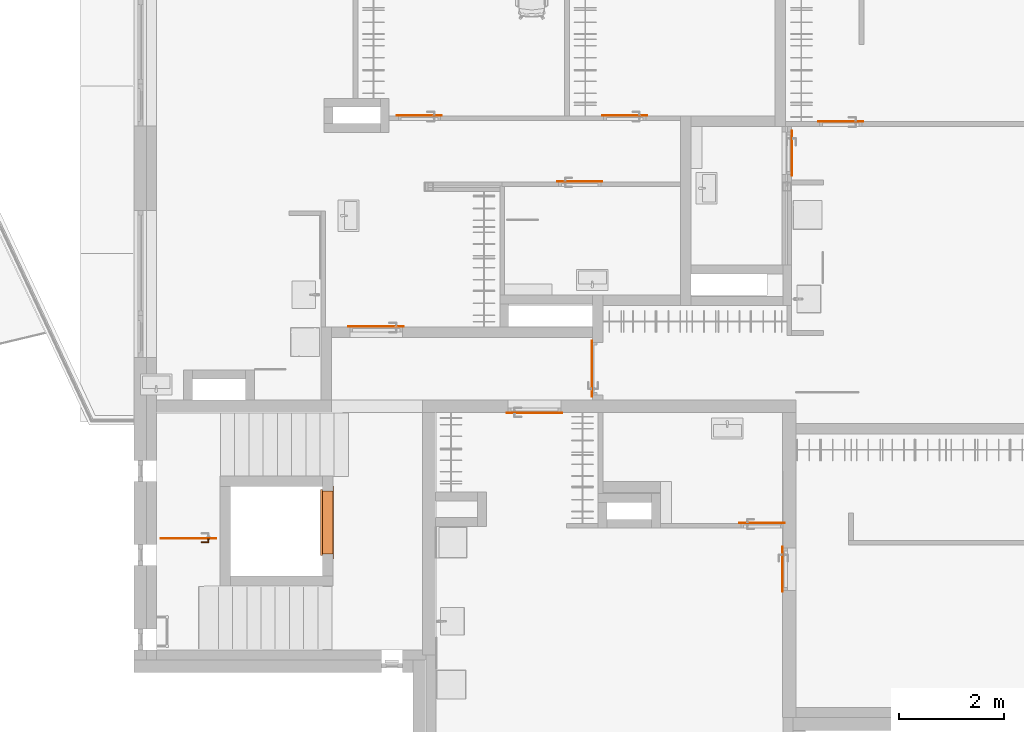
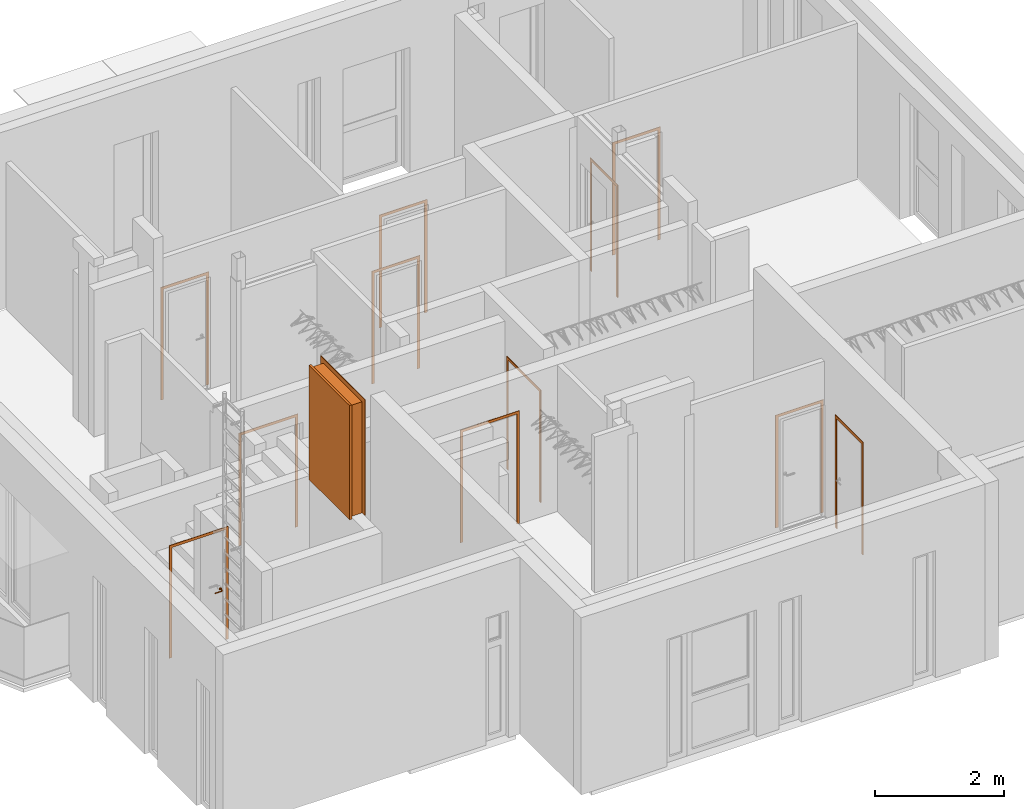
# One storey, part 21 of 42: 13 proxies.
"""IFC2X3 building model written with IfcOpenShell, lengths in millimetres."""

from ifc_helpers import new_model, entity, si_unit, converted_unit, direction, frame, origin, origin_2d_with_axis, place, context, subcontext, project, spatial, polyline, rectangle, outline, extrude, faceted_brep, source, transform, mapped, material, type_object, type_shapes, element, save


model = new_model("IFC2X3")

# Units and contexts
model_context = context("Model", 3, precision=0.01, world=origin(), true_north=direction((6.123233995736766e-17, 1.0)))
plan_context = context("Plan", 3, precision=0.01, world=origin(), true_north=direction((6.123233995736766e-17, 1.0)))
body_context = subcontext(model_context, "Body", "Model", "MODEL_VIEW")
ifc_project = project(units=[si_unit("LENGTHUNIT", "METRE", prefix="MILLI"), converted_unit("PLANEANGLEUNIT", "DEGREE", entity("IfcPlaneAngleMeasure", 0.017453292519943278), si_unit("PLANEANGLEUNIT", "RADIAN"), dimensions=[0, 0, 0, 0, 0, 0, 0]), si_unit("AREAUNIT", "SQUARE_METRE")], contexts=[model_context, plan_context])

# Site, building, storey, space
site_placement = place(None, origin())
site = spatial("IfcSite", under=ifc_project, at=site_placement, Name="Default", CompositionType="ELEMENT")
building_placement = place(site_placement, origin())
building = spatial("IfcBuilding", under=site, at=building_placement, CompositionType="ELEMENT")
storey_placement = place(building_placement, frame((0.0, 0.0, 9465.000076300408)))
storey = spatial("IfcBuildingStorey", under=building, at=storey_placement, Name="4K", CompositionType="ELEMENT", Elevation=9465.000076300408)
space_1_placement = place(storey_placement, origin())
space_1 = spatial("IfcSpace", under=storey, at=space_1_placement, Name="4-0.1", CompositionType="ELEMENT", InteriorOrExteriorSpace="INTERNAL")

# Proxies
ifc_material_1 = material(Name="<Unnamed>")
building_element_proxy_type_1 = type_object("IfcBuildingElementProxyType", Name="Door-handle_Lever_ABLOY_INOXI_3-19ss-002_RT:Default", PredefinedType="NOTDEFINED", material=ifc_material_1)
shared_shape_1 = source(origin(), body_context, "Body", "Brep", [
    faceted_brep([(0.0, 0.0, 0.0), (21.034441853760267, -15.282416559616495, 0.0), (14.534441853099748, -20.00494299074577, 0.0), (8.034441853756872, -24.72746942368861, 0.0), (0.0, -24.72746942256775, 0.0), (23.51722092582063, -7.6412082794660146, 0.0), (26.0, 0.0, 0.0), (-8.034441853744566, -24.727469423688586, 0.0), (-14.534441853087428, -20.00494299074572, 0.0), (-21.03444185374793, -15.282416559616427, 0.0), (-23.517220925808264, -7.641208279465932, 0.0), (-26.0, 0.0, 0.0), (-23.517220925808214, 7.641208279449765, 0.0), (23.517220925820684, 7.641208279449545, 0.0), (21.034441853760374, 15.282416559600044, 0.0), (14.53444185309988, 20.00494299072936, 0.0), (8.034441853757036, 24.72746942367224, 0.0), (-21.034441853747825, 15.282416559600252, 0.0), (-14.53444185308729, 20.004942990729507, 0.0), (-8.0344418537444, 24.72746942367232, 0.0), (0.0, 24.72746942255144, 0.0), (0.0, 0.0, 8.0), (4.7500000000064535, -8.227241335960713, 8.0), (5.937500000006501, -6.170431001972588, 8.0), (7.125000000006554, -4.113620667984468, 8.0), (8.312500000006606, -2.0568103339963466, 8.0), (9.500000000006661, 0.0, 8.0), (8.312500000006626, 2.056810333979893, 8.0), (2.3750000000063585, -8.227241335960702, 8.0), (0.0, -8.227241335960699, 8.0), (-2.3749999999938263, -8.227241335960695, 8.0), (-4.749999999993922, -8.227241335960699, 8.0), (-5.937499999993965, -6.170431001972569, 8.0), (-7.124999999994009, -4.113620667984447, 8.0), (-8.312499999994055, -2.056810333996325, 8.0), (-9.499999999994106, 0.0, 8.0), (7.125000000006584, 4.113620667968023, 8.0), (5.937500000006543, 6.170431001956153, 8.0), (4.750000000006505, 8.227241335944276, 8.0), (2.3750000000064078, 8.22724133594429, 8.0), (-8.31249999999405, 2.0568103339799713, 8.0), (-7.12499999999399, 4.113620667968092, 8.0), (-5.9374999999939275, 6.170431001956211, 8.0), (-4.74999999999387, 8.227241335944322, 8.0), (0.0, 8.227241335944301, 8.0), (-2.374999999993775, 8.227241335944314, 8.0), (-22.488765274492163, -10.806469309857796, 4.030771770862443), (-16.663919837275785, -7.932665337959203, 6.877259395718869), (-20.643071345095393, -6.292822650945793, 5.929480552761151), (-12.50457926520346, -5.179566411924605, 7.774932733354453), (-16.764060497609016, -3.820257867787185, 7.1747985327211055), (-9.071726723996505, -10.311606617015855, 7.7520782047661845), (-11.963426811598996, -8.625290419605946, 7.618343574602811), (-11.979136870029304, -13.678312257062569, 6.945778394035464), (5.7585542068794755, -20.96753300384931, 5.871476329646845), (0.0, -24.72746942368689, 4.030771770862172), (8.03444185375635, -24.727469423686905, 4.030771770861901), (16.66391982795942, -7.932665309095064, 6.877259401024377), (22.488765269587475, -10.806469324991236, 4.03077177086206), (20.64307133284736, -6.29282258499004, 5.929480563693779), (14.534441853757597, -20.004942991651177, 4.030771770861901), (9.499431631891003, -18.64368355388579, 6.154325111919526), (-15.783149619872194, -11.991003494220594, 6.50080018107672), (-21.034441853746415, -15.282416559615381, 4.030771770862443), (-14.53444185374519, -20.00494299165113, 4.030771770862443), (-23.012042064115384, 0.0, 5.135401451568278), (-23.943088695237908, -6.330522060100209, 4.030771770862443), (11.96342678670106, -8.62529049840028, 7.618343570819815), (12.504579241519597, -5.179566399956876, 7.774932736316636), (16.764060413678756, -3.8202578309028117, 7.17479855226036), (15.783149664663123, -11.991003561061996, 6.50080015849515), (17.985351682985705, 0.0, 6.993737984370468), (23.012042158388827, 0.0, 5.135401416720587), (8.661516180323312, -10.478936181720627, 7.768126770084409), (-8.03444185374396, -24.727469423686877, 4.030771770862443), (-3.3573143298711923, -21.197247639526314, 5.971427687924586), (-9.941915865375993, -17.061976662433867, 6.522757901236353), (-5.973257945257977, -16.430139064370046, 7.110979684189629), (-7.711266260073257, -12.760344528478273, 7.594456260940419), (11.979136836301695, -13.678312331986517, 6.945778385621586), (7.511307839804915, -13.358932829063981, 7.529187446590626), (5.953298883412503, -16.50608604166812, 7.096344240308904), (-1.5654593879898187, -15.307443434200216, 7.519134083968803), (-7.784980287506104, -20.476295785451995, 5.812837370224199), (2.8135289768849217, -17.76392260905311, 6.993737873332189), (-17.98535168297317, 0.0, 6.993737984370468), (-26.0, 0.0, 4.030771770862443), (-23.51722092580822, -7.641208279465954, 4.030771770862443), (23.943088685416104, -6.33052209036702, 4.030771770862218), (24.308823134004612, -5.204907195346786, 4.030771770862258), (26.0, 0.0, 4.030771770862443), (21.03444185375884, -15.282416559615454, 4.030771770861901), (22.617646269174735, -10.40981439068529, 4.030771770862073), (22.488765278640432, 10.806469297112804, 4.030771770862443), (16.66391984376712, 7.932665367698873, 6.877259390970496), (20.643071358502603, 6.292822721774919, 5.929480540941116), (12.504579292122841, 5.179566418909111, 7.774932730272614), (16.764060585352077, 3.8202579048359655, 7.174798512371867), (9.07172672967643, 10.31160659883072, 7.752078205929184), (11.963426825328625, 8.62529034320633, 7.618343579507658), (11.979136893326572, 13.67831220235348, 6.9457784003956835), (-5.758554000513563, 20.96753314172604, 5.8714763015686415), (0.0, 24.72746942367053, 4.030771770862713), (-8.03444185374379, 24.72746942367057, 4.030771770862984), (-16.663919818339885, 7.932665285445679, 6.877259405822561), (-22.48876526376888, 10.806469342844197, 4.030771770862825), (-20.643071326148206, 6.2928225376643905, 5.929480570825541), (-14.534441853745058, 20.004942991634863, 4.030771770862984), (-9.499431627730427, 18.643683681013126, 6.154325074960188), (15.783149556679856, 11.991003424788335, 6.5008002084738), (21.03444185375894, 15.282416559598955, 4.030771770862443), (14.534441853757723, 20.004942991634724, 4.030771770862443), (23.943088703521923, 6.330522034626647, 4.030771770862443), (-11.96342675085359, 8.625290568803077, 7.618343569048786), (-12.504579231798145, 5.179566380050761, 7.77493273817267), (-16.764060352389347, 3.820257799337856, 7.174798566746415), (-15.78314967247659, 11.991003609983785, 6.500800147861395), (-8.661516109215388, 10.478936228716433, 7.768126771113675), (8.034441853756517, 24.727469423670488, 4.030771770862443), (3.3573144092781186, 21.197247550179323, 5.971427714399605), (9.941915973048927, 17.061976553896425, 6.522757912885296), (5.9732581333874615, 16.430139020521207, 7.110979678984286), (7.711266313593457, 12.760344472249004, 7.5944562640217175), (-11.979136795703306, 13.678312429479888, 6.945778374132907), (-7.511307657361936, 13.358932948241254, 7.5291874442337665), (-5.9532988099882, 16.50608628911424, 7.096344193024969), (1.5654596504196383, 15.3074431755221, 7.519134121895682), (7.784980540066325, 20.476295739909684, 5.812837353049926), (-2.81352881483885, 17.76392263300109, 6.993737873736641), (23.51722092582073, 7.6412082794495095, 4.030771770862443), (-23.94308867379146, 6.330522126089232, 4.030771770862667), (-24.308823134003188, 5.20490719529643, 4.030771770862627), (-21.034441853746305, 15.282416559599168, 4.030771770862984), (-22.617646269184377, 10.409814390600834, 4.0307717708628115)], [[[0, 1, 2]], [[0, 2, 3]], [[0, 3, 4]], [[0, 5, 1]], [[0, 6, 5]], [[0, 4, 7]], [[0, 7, 8]], [[0, 8, 9]], [[0, 9, 10]], [[0, 10, 11]], [[0, 11, 12]], [[0, 13, 6]], [[0, 14, 13]], [[0, 15, 14]], [[0, 16, 15]], [[0, 12, 17]], [[0, 17, 18]], [[0, 18, 19]], [[0, 19, 20]], [[0, 20, 16]], [[21, 22, 23]], [[21, 23, 24]], [[21, 24, 25]], [[21, 25, 26]], [[21, 26, 27]], [[21, 28, 22]], [[21, 29, 28]], [[21, 30, 29]], [[21, 31, 30]], [[21, 32, 31]], [[21, 33, 32]], [[21, 34, 33]], [[21, 35, 34]], [[21, 27, 36]], [[21, 36, 37]], [[21, 37, 38]], [[21, 38, 39]], [[21, 40, 35]], [[21, 41, 40]], [[21, 42, 41]], [[21, 43, 42]], [[21, 39, 44]], [[21, 44, 45]], [[21, 45, 43]], [[46, 47, 48]], [[47, 49, 50]], [[49, 33, 34]], [[51, 52, 53]], [[49, 52, 33]], [[48, 47, 50]], [[54, 55, 56]], [[57, 58, 59]], [[56, 60, 61]], [[62, 63, 64]], [[65, 66, 48]], [[67, 57, 68]], [[68, 69, 25]], [[57, 67, 70]], [[69, 26, 25]], [[62, 53, 52]], [[71, 69, 72]], [[67, 23, 73]], [[74, 55, 75]], [[76, 77, 78]], [[79, 60, 70]], [[69, 59, 72]], [[80, 81, 61]], [[77, 30, 78]], [[82, 30, 77]], [[28, 80, 22]], [[77, 83, 75]], [[75, 82, 77]], [[55, 84, 75]], [[85, 50, 35]], [[24, 68, 25]], [[82, 84, 29]], [[84, 82, 75]], [[31, 78, 30]], [[82, 29, 30]], [[34, 35, 50]], [[52, 49, 47]], [[62, 52, 47]], [[34, 50, 49]], [[53, 78, 51]], [[32, 33, 52]], [[85, 65, 50]], [[66, 65, 86]], [[67, 68, 24]], [[77, 76, 83]], [[65, 48, 50]], [[63, 62, 46]], [[48, 66, 87, 46]], [[62, 47, 46]], [[69, 68, 57]], [[80, 73, 22]], [[70, 67, 79]], [[67, 24, 23]], [[72, 88, 89, 90]], [[69, 71, 26]], [[59, 69, 57]], [[61, 60, 79]], [[62, 64, 53]], [[91, 58, 70]], [[72, 59, 88]], [[57, 70, 58]], [[59, 58, 92]], [[80, 61, 79]], [[91, 70, 60]], [[61, 81, 54]], [[73, 80, 79]], [[28, 84, 81]], [[67, 73, 79]], [[29, 84, 28]], [[22, 73, 23]], [[51, 31, 32]], [[76, 78, 53]], [[53, 64, 76]], [[83, 64, 74]], [[64, 83, 76]], [[75, 83, 74]], [[31, 51, 78]], [[52, 51, 32]], [[28, 81, 80]], [[54, 81, 84]], [[55, 54, 84]], [[61, 54, 56]], [[93, 94, 95]], [[94, 96, 97]], [[96, 36, 27]], [[98, 99, 100]], [[96, 99, 36]], [[95, 94, 97]], [[101, 102, 103]], [[104, 105, 106]], [[103, 107, 108]], [[109, 110, 111]], [[72, 112, 95]], [[113, 104, 114]], [[114, 115, 40]], [[104, 113, 116]], [[115, 35, 40]], [[109, 100, 99]], [[85, 115, 65]], [[113, 42, 117]], [[118, 102, 119]], [[120, 121, 122]], [[123, 107, 116]], [[115, 106, 65]], [[124, 125, 108]], [[121, 39, 122]], [[126, 39, 121]], [[45, 124, 43]], [[121, 127, 119]], [[119, 126, 121]], [[102, 128, 119]], [[71, 97, 26]], [[41, 114, 40]], [[126, 128, 44]], [[128, 126, 119]], [[38, 122, 39]], [[126, 44, 39]], [[27, 26, 97]], [[99, 96, 94]], [[109, 99, 94]], [[27, 97, 96]], [[100, 122, 98]], [[37, 36, 99]], [[71, 72, 97]], [[112, 72, 90]], [[113, 114, 41]], [[121, 120, 127]], [[72, 95, 97]], [[110, 109, 93]], [[95, 112, 129, 93]], [[109, 94, 93]], [[115, 114, 104]], [[124, 117, 43]], [[116, 113, 123]], [[113, 41, 42]], [[65, 130, 131, 86]], [[115, 85, 35]], [[106, 115, 104]], [[108, 107, 123]], [[109, 111, 100]], [[132, 105, 116]], [[65, 106, 130]], [[104, 116, 105]], [[106, 105, 133]], [[124, 108, 123]], [[132, 116, 107]], [[108, 125, 101]], [[117, 124, 123]], [[45, 128, 125]], [[113, 117, 123]], [[44, 128, 45]], [[43, 117, 42]], [[98, 38, 37]], [[120, 122, 100]], [[100, 111, 120]], [[127, 111, 118]], [[111, 127, 120]], [[119, 127, 118]], [[38, 98, 122]], [[99, 98, 37]], [[45, 125, 124]], [[101, 125, 128]], [[102, 101, 128]], [[108, 101, 103]], [[7, 74, 64, 63, 9, 8]], [[10, 9, 63, 46, 87, 66, 86, 11]], [[6, 90, 89, 88, 92, 1, 5]], [[1, 58, 91]], [[74, 7, 4, 3, 56, 55]], [[60, 56, 3, 2, 1, 91]], [[1, 92, 58]], [[14, 110, 93, 129, 112, 90, 6, 13]], [[111, 110, 14, 15, 16, 118]], [[11, 86, 131, 130, 133, 17, 12]], [[17, 105, 132]], [[118, 16, 20, 19, 103, 102]], [[107, 103, 19, 18, 17, 132]], [[17, 133, 105]], [[59, 92, 88]], [[106, 133, 130]]]),
    faceted_brep([(4.7499999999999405, -8.22724133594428, 8.0), (2.4587809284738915, -9.176295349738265, 8.0), (0.0, -9.499999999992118, 8.0), (-2.4587809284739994, -9.176295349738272, 8.0), (-4.7500000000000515, -8.227241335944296, 8.0), (-6.717514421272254, -6.717514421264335, 8.0), (-8.227241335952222, -4.74999999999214, 8.0), (-9.176295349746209, -2.4587809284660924, 8.0), (-9.500000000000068, 0.0, 8.0), (-9.176295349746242, 2.458780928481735, 8.0), (-8.227241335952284, 4.750000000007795, 8.0), (-6.717514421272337, 6.717514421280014, 8.0), (-4.750000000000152, 8.227241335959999, 8.0), (-2.4587809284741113, 9.176295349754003, 8.0), (0.0, 9.500000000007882, 8.0), (2.4587809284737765, 9.176295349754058, 8.0), (4.7499999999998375, 8.227241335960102, 8.0), (6.717514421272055, 6.717514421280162, 8.0), (8.22724133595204, 4.75000000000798, 8.0), (9.17629534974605, 2.458780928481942, 8.0), (9.499999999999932, 0.0, 8.0), (9.17629534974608, -2.458780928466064, 8.0), (8.227241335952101, -4.749999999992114, 8.0), (6.717514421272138, -6.7175144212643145, 8.0), (-8.227241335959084, 4.7499999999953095, 59.772758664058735), (-6.717514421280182, 6.7175144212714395, 61.282485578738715), (-9.176295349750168, 2.458780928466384, 58.82370465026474), (-4.750000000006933, 8.227241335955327, 63.25000000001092), (-2.4587809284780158, 9.176295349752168, 65.54121907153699), (-9.500000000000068, 0.0, 58.50000000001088), (0.0, 9.50000000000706, 68.0), (4.750000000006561, 8.227241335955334, 72.75000000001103), (2.4587809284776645, 9.17629534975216, 70.45878092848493), (6.717514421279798, 6.7175144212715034, 74.71751442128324), (8.22724133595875, 4.749999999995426, 76.22724133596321), (9.17629534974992, 2.458780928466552, 77.17629534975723), (9.499999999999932, 0.0, 77.50000000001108), (9.176295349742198, -2.4587809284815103, 77.1762953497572), (8.227241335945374, -4.750000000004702, 76.22724133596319), (6.7175144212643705, -6.717514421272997, 74.7175144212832), (4.749999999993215, -8.227241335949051, 72.75000000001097), (2.4587809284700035, -9.17629534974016, 70.45878092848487), (0.0, -9.49999999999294, 68.0), (-2.4587809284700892, -9.176295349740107, 65.54121907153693), (-4.749999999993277, -8.227241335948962, 63.250000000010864), (-6.717514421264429, -6.717514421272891, 61.282485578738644), (-9.176295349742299, -2.458780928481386, 58.8237046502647), (-8.227241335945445, -4.750000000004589, 59.77275866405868), (-135.0, -9.176295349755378, 70.4587809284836), (-135.0, -8.227241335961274, 72.75000000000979), (-135.0, -6.717514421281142, 74.71751442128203), (-135.0, -4.750000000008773, 76.22724133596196), (-135.0, -2.4587809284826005, 77.17629534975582), (-135.0, 0.0, 77.5000000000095), (-135.0, 2.4587809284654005, 77.17629534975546), (-135.0, 4.749999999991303, 76.22724133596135), (-135.0, 6.717514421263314, 74.71751442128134), (-135.0, 8.227241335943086, 72.75000000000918), (-135.0, 9.17629534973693, 70.45878092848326), (-135.0, 9.499999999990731, 68.0), (-135.0, 9.17629534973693, 65.54121907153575), (-135.0, 8.227241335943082, 63.250000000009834), (-135.0, 6.717514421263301, 61.28248557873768), (-135.0, 4.749999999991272, 59.772758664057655), (-135.0, 2.458780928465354, 58.823704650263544), (-135.0, 0.0, 58.50000000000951), (-135.0, -2.458780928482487, 58.82370465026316), (-135.0, -4.750000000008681, 59.772758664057), (-135.0, -6.7175144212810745, 61.28248557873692), (-135.0, -8.227241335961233, 63.25000000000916), (-135.0, -9.176295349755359, 65.54121907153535), (-135.0, -9.500000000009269, 68.0)], [[[0, 1, 2, 3, 4, 5, 6, 7, 8, 9, 10, 11, 12, 13, 14, 15, 16, 17, 18, 19, 20, 21, 22, 23]], [[24, 25, 11, 10]], [[26, 24, 10, 9]], [[14, 27, 28]], [[13, 27, 14]], [[25, 27, 13]], [[29, 26, 9, 8]], [[12, 11, 25]], [[25, 13, 12]], [[28, 30, 15]], [[31, 17, 32]], [[33, 18, 31]], [[19, 34, 35]], [[33, 34, 19]], [[20, 19, 35, 36]], [[16, 15, 30]], [[14, 28, 15]], [[19, 18, 33]], [[17, 31, 18]], [[17, 16, 32]], [[30, 32, 16]], [[20, 36, 37, 21]], [[38, 21, 37]], [[22, 39, 40]], [[38, 39, 21]], [[23, 40, 41]], [[39, 22, 21]], [[1, 42, 43]], [[42, 1, 0]], [[23, 41, 0]], [[23, 22, 40]], [[41, 42, 0]], [[44, 45, 3]], [[43, 44, 2]], [[46, 29, 8, 7]], [[47, 46, 7, 6]], [[45, 47, 6, 5]], [[45, 4, 3]], [[3, 2, 44]], [[5, 4, 45]], [[43, 2, 1]], [[48, 49, 50, 51, 52, 53, 54, 55, 56, 57, 58, 59, 60, 61, 62, 63, 64, 65, 66, 67, 68, 69, 70, 71]], [[64, 63, 24, 26]], [[65, 64, 26, 29]], [[61, 60, 28, 27]], [[62, 61, 27, 25]], [[63, 62, 25, 24]], [[59, 30, 28, 60]], [[57, 56, 33, 31]], [[58, 57, 31, 32]], [[54, 53, 36, 35]], [[55, 54, 35, 34]], [[56, 55, 34, 33]], [[32, 30, 59, 58]], [[52, 51, 38, 37]], [[53, 52, 37, 36]], [[49, 48, 41, 40]], [[50, 49, 40, 39]], [[51, 50, 39, 38]], [[42, 41, 48, 71]], [[69, 68, 45, 44]], [[70, 69, 44, 43]], [[66, 65, 29, 46]], [[67, 66, 46, 47]], [[68, 67, 47, 45]], [[42, 71, 70, 43]]]),
])
type_shapes(building_element_proxy_type_1, [shared_shape_1])
proxy_1_placement = place(space_1_placement, frame((984.9967674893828, 4010.0, 2565.999923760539), z_axis=(0.0, -1.0, 0.0), x_axis=(1.0, 0.0, 0.0)))
element("IfcBuildingElementProxy", 1, at=proxy_1_placement, inside=space_1, type_object=building_element_proxy_type_1, material=ifc_material_1, Name="Door-handle_Lever_ABLOY_INOXI_3-19ss-002_RT:Default", ObjectType="Door-handle_Lever_ABLOY_INOXI_3-19ss-002_RT:Default", context=body_context, shape_type="MappedRepresentation", body=[
    mapped(shared_shape_1, transform((0.0, 0.0, 0.0), scale=1.0)),
])
building_element_proxy_type_2 = type_object("IfcBuildingElementProxyType", Name="Door-casing_Rectangle:Door-casing_Rectangle", PredefinedType="NOTDEFINED", material=ifc_material_1)
shared_shape_2 = source(origin(), body_context, "Body", "SweptSolid", [
    extrude(rectangle(XDim=9.999999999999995, YDim=49.99999999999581, at=origin_2d_with_axis()), frame((-505.0, 5.0, 0.0), z_axis=(0.0, 0.0, 1.0), x_axis=(0.0, 1.0, 0.0)), (0.0, 0.0, 1.0), 2130.000000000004),
    extrude(rectangle(XDim=9.999999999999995, YDim=50.0000000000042, at=origin_2d_with_axis()), frame((505.0, 5.0, 0.0), z_axis=(0.0, 0.0, 1.0), x_axis=(0.0, 1.0, 0.0)), (0.0, 0.0, 1.0), 2130.000000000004),
    extrude(rectangle(XDim=9.999999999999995, YDim=960.0000000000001, at=origin_2d_with_axis()), frame((0.0, 5.0, 2080.0), z_axis=(0.0, 0.0, 1.0), x_axis=(0.0, 1.0, 0.0)), (0.0, 0.0, 1.0), 50.000000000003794),
])
type_shapes(building_element_proxy_type_2, [shared_shape_2])
proxy_2_placement = place(space_1_placement, frame((604.9967674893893, 4020.0, 1565.9999237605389), z_axis=(0.0, 0.0, 1.0), x_axis=(-1.0, 0.0, 0.0)))
element("IfcBuildingElementProxy", 2, at=proxy_2_placement, inside=space_1, type_object=building_element_proxy_type_2, material=ifc_material_1, Name="Door-casing_Rectangle:Door-casing_Rectangle", ObjectType="Door-casing_Rectangle:Door-casing_Rectangle", context=body_context, shape_type="MappedRepresentation", body=[
    mapped(shared_shape_2, transform((0.0, 0.0, 0.0), scale=1.0)),
])
building_element_proxy_type_3 = type_object("IfcBuildingElementProxyType", Name="HR_Elevator-door_v1:Default", PredefinedType="NOTDEFINED", material=ifc_material_1)
shared_shape_3 = source(origin(), body_context, "Body", "SweptSolid", [
    extrude(rectangle(XDim=39.999999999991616, YDim=630.0000000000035, at=origin_2d_with_axis()), frame((-190.0, -120.00000000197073, -30.0), z_axis=(0.0, 0.0, 1.0), x_axis=(0.0, 1.0, 0.0)), (0.0, 0.0, 1.0), 2160.000000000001),
    extrude(rectangle(XDim=39.999999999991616, YDim=629.9999999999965, at=origin_2d_with_axis()), frame((440.0, -120.00000000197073, -30.0), z_axis=(0.0, 0.0, 1.0), x_axis=(0.0, 1.0, 0.0)), (0.0, 0.0, 1.0), 2160.000000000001),
    extrude(outline(polyline([(-690.0, -1070.0), (-590.0, -1070.0), (-590.0, 1020.0), (590.0, 1020.0), (590.0, -1070.0), (690.0, -1070.0), (690.0, 1120.0), (-690.0, 1120.0), (-690.0, -1070.0)])), frame((125.0, 99.99999999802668, 1070.0), z_axis=(0.0, 1.0, 0.0), x_axis=(-1.0, 0.0, 0.0)), (0.0, 0.0, 1.0), 10.000000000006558),
    extrude(outline(polyline([(-1052.5000000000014, -600.0), (1047.5, -600.0), (1047.4999999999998, -590.0), (-1042.4999999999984, -590.0), (-1042.4999999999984, 590.0), (1047.4999999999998, 590.0), (1047.5, 600.0), (-1052.5000000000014, 600.0), (-1052.5000000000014, -600.0)])), frame((125.0, -100.00000000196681, 1047.5000000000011), z_axis=(0.0, 1.0, 0.0), x_axis=(0.0, 0.0, -1.0)), (0.0, 0.0, 1.0), 199.99999999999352),
])
type_shapes(building_element_proxy_type_3, [shared_shape_3])
proxy_3_placement = place(space_1_placement, frame((3249.9935349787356, 4444.998433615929, 3345.999923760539), z_axis=(0.0, 0.0, 1.0), x_axis=(0.0, -1.0, 0.0)))
element("IfcBuildingElementProxy", 3, at=proxy_3_placement, inside=space_1, type_object=building_element_proxy_type_3, material=ifc_material_1, Name="HR_Elevator-door_v1:Default", ObjectType="HR_Elevator-door_v1:Default", context=body_context, shape_type="MappedRepresentation", body=[
    mapped(shared_shape_3, transform((0.0, 0.0, 0.0), scale=1.0)),
])

# Space
space_2_placement = place(storey_placement, origin())
space_2 = spatial("IfcSpace", under=storey, at=space_2_placement, Name="4-10.3", CompositionType="ELEMENT", InteriorOrExteriorSpace="INTERNAL")

# Proxy
ifc_material_2 = material(Name="_K. Puit. Peitsitud ja lakitud")
building_element_proxy_type_4 = type_object("IfcBuildingElementProxyType", Name="Door-casing_Rectangle:Door-casing_Rectangle", PredefinedType="NOTDEFINED", material=ifc_material_2)
shared_shape_4 = source(origin(), body_context, "Body", "SweptSolid", [
    extrude(rectangle(XDim=9.999999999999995, YDim=49.99999999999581, at=origin_2d_with_axis()), frame((-405.0, 5.0, 0.0), z_axis=(0.0, 0.0, 1.0), x_axis=(0.0, 1.0, 0.0)), (0.0, 0.0, 1.0), 2130.000000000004),
    extrude(rectangle(XDim=9.999999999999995, YDim=50.0000000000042, at=origin_2d_with_axis()), frame((405.0, 5.0, 0.0), z_axis=(0.0, 0.0, 1.0), x_axis=(0.0, 1.0, 0.0)), (0.0, 0.0, 1.0), 2130.000000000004),
    extrude(rectangle(XDim=9.999999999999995, YDim=760.0000000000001, at=origin_2d_with_axis()), frame((0.0, 5.0, 2080.0), z_axis=(0.0, 0.0, 1.0), x_axis=(0.0, 1.0, 0.0)), (0.0, 0.0, 1.0), 50.000000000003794),
])
type_shapes(building_element_proxy_type_4, [shared_shape_4])
proxy_4_placement = place(space_2_placement, frame((13000.0, 11938.0, 0.0)))
element("IfcBuildingElementProxy", 4, at=proxy_4_placement, inside=space_2, type_object=building_element_proxy_type_4, material=ifc_material_2, Name="Door-casing_Rectangle:Door-casing_Rectangle", ObjectType="Door-casing_Rectangle:Door-casing_Rectangle", context=body_context, shape_type="MappedRepresentation", body=[
    mapped(shared_shape_4, transform((0.0, 0.0, 0.0), scale=1.0)),
])

# Space
space_3_placement = place(storey_placement, origin())
space_3 = spatial("IfcSpace", under=storey, at=space_3_placement, Name="4-10.2", CompositionType="ELEMENT", InteriorOrExteriorSpace="INTERNAL")

# Proxy
proxy_5_placement = place(space_3_placement, frame((12068.0, 11336.0, 0.0), z_axis=(0.0, 0.0, 1.0), x_axis=(0.0, -1.0, 0.0)))
element("IfcBuildingElementProxy", 5, at=proxy_5_placement, inside=space_3, type_object=building_element_proxy_type_4, material=ifc_material_2, Name="Door-casing_Rectangle:Door-casing_Rectangle", ObjectType="Door-casing_Rectangle:Door-casing_Rectangle", context=body_context, shape_type="MappedRepresentation", body=[
    mapped(shared_shape_4, transform((0.0, 0.0, 0.0), scale=1.0)),
])

# Space
space_4_placement = place(storey_placement, origin())
space_4 = spatial("IfcSpace", under=storey, at=space_4_placement, Name="4-9.5", CompositionType="ELEMENT", InteriorOrExteriorSpace="INTERNAL")

# Proxy
proxy_6_placement = place(space_4_placement, frame((8894.0, 12046.0, 0.0)))
element("IfcBuildingElementProxy", 6, at=proxy_6_placement, inside=space_4, type_object=building_element_proxy_type_4, material=ifc_material_2, Name="Door-casing_Rectangle:Door-casing_Rectangle", ObjectType="Door-casing_Rectangle:Door-casing_Rectangle", context=body_context, shape_type="MappedRepresentation", body=[
    mapped(shared_shape_4, transform((0.0, 0.0, 0.0), scale=1.0)),
])

# Space
space_5_placement = place(storey_placement, origin())
space_5 = spatial("IfcSpace", under=storey, at=space_5_placement, Name="4-9.4", CompositionType="ELEMENT", InteriorOrExteriorSpace="INTERNAL")

# Proxy
proxy_7_placement = place(space_5_placement, frame((4992.0, 12046.0, 0.0)))
element("IfcBuildingElementProxy", 7, at=proxy_7_placement, inside=space_5, type_object=building_element_proxy_type_4, material=ifc_material_2, Name="Door-casing_Rectangle:Door-casing_Rectangle", ObjectType="Door-casing_Rectangle:Door-casing_Rectangle", context=body_context, shape_type="MappedRepresentation", body=[
    mapped(shared_shape_4, transform((0.0, 0.0, 0.0), scale=1.0)),
])

# Space
space_6_placement = place(storey_placement, origin())
space_6 = spatial("IfcSpace", under=storey, at=space_6_placement, Name="4-9.3", CompositionType="ELEMENT", InteriorOrExteriorSpace="INTERNAL")

# Proxy
proxy_8_placement = place(space_6_placement, frame((8040.0, 10793.0, 0.0)))
element("IfcBuildingElementProxy", 8, at=proxy_8_placement, inside=space_6, type_object=building_element_proxy_type_4, material=ifc_material_2, Name="Door-casing_Rectangle:Door-casing_Rectangle", ObjectType="Door-casing_Rectangle:Door-casing_Rectangle", context=body_context, shape_type="MappedRepresentation", body=[
    mapped(shared_shape_4, transform((0.0, 0.0, 0.0), scale=1.0)),
])

# Space
space_7_placement = place(storey_placement, origin())
space_7 = spatial("IfcSpace", under=storey, at=space_7_placement, Name="4-11.2", CompositionType="ELEMENT", InteriorOrExteriorSpace="INTERNAL")

# Proxy
proxy_9_placement = place(space_7_placement, frame((11894.993534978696, 3430.0, 0.0), z_axis=(0.0, 0.0, 1.0), x_axis=(0.0, 1.0, 0.0)))
element("IfcBuildingElementProxy", 9, at=proxy_9_placement, inside=space_7, type_object=building_element_proxy_type_4, material=ifc_material_2, Name="Door-casing_Rectangle:Door-casing_Rectangle", ObjectType="Door-casing_Rectangle:Door-casing_Rectangle", context=body_context, shape_type="MappedRepresentation", body=[
    mapped(shared_shape_4, transform((0.0, 0.0, 0.0), scale=1.0)),
])

# Space
space_8_placement = place(storey_placement, origin())
space_8 = spatial("IfcSpace", under=storey, at=space_8_placement, Name="4-11.5", CompositionType="ELEMENT", InteriorOrExteriorSpace="INTERNAL")

# Proxy
proxy_10_placement = place(space_8_placement, frame((11504.993534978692, 4302.0, 0.0)))
element("IfcBuildingElementProxy", 10, at=proxy_10_placement, inside=space_8, type_object=building_element_proxy_type_4, material=ifc_material_2, Name="Door-casing_Rectangle:Door-casing_Rectangle", ObjectType="Door-casing_Rectangle:Door-casing_Rectangle", context=body_context, shape_type="MappedRepresentation", body=[
    mapped(shared_shape_4, transform((0.0, 0.0, 0.0), scale=1.0)),
])

# Space
space_9_placement = place(storey_placement, origin())
space_9 = spatial("IfcSpace", under=storey, at=space_9_placement, Name="4-11.1", CompositionType="ELEMENT", InteriorOrExteriorSpace="INTERNAL")

# Proxy
building_element_proxy_type_5 = type_object("IfcBuildingElementProxyType", Name="Door-casing_Rectangle:Door-casing_Rectangle", PredefinedType="NOTDEFINED", material=ifc_material_2)
shared_shape_5 = source(origin(), body_context, "Body", "SweptSolid", [
    extrude(rectangle(XDim=9.999999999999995, YDim=49.99999999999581, at=origin_2d_with_axis()), frame((-505.0, 5.0, 0.0), z_axis=(0.0, 0.0, 1.0), x_axis=(0.0, 1.0, 0.0)), (0.0, 0.0, 1.0), 2130.000000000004),
    extrude(rectangle(XDim=9.999999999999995, YDim=50.0000000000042, at=origin_2d_with_axis()), frame((505.0, 5.0, 0.0), z_axis=(0.0, 0.0, 1.0), x_axis=(0.0, 1.0, 0.0)), (0.0, 0.0, 1.0), 2130.000000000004),
    extrude(rectangle(XDim=9.999999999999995, YDim=960.0000000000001, at=origin_2d_with_axis()), frame((0.0, 5.0, 2080.0), z_axis=(0.0, 0.0, 1.0), x_axis=(0.0, 1.0, 0.0)), (0.0, 0.0, 1.0), 50.000000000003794),
])
type_shapes(building_element_proxy_type_5, [shared_shape_5])
proxy_11_placement = place(space_9_placement, frame((7180.0, 6404.999959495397, 0.0), z_axis=(0.0, 0.0, 1.0), x_axis=(-1.0, 0.0, 0.0)))
element("IfcBuildingElementProxy", 11, at=proxy_11_placement, inside=space_9, type_object=building_element_proxy_type_5, material=ifc_material_2, Name="Door-casing_Rectangle:Door-casing_Rectangle", ObjectType="Door-casing_Rectangle:Door-casing_Rectangle", context=body_context, shape_type="MappedRepresentation", body=[
    mapped(shared_shape_5, transform((0.0, 0.0, 0.0), scale=1.0)),
])

# Space
space_10_placement = place(storey_placement, origin())
space_10 = spatial("IfcSpace", under=storey, at=space_10_placement, Name="4-9.1", CompositionType="ELEMENT", InteriorOrExteriorSpace="INTERNAL")

# Proxy
proxy_12_placement = place(space_10_placement, frame((4170.0, 8034.999959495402, 0.0)))
element("IfcBuildingElementProxy", 12, at=proxy_12_placement, inside=space_10, type_object=building_element_proxy_type_5, material=ifc_material_2, Name="Door-casing_Rectangle:Door-casing_Rectangle", ObjectType="Door-casing_Rectangle:Door-casing_Rectangle", context=body_context, shape_type="MappedRepresentation", body=[
    mapped(shared_shape_5, transform((0.0, 0.0, 0.0), scale=1.0)),
])

# Space
space_11_placement = place(storey_placement, origin())
space_11 = spatial("IfcSpace", under=storey, at=space_11_placement, Name="4-0.3", CompositionType="ELEMENT", InteriorOrExteriorSpace="INTERNAL")

# Proxy
proxy_13_placement = place(space_11_placement, frame((8280.0, 7239.999959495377, 0.0), z_axis=(0.0, 0.0, 1.0), x_axis=(0.0, 1.0, 0.0)))
element("IfcBuildingElementProxy", 13, at=proxy_13_placement, inside=space_11, type_object=building_element_proxy_type_5, material=ifc_material_2, Name="Door-casing_Rectangle:Door-casing_Rectangle", ObjectType="Door-casing_Rectangle:Door-casing_Rectangle", context=body_context, shape_type="MappedRepresentation", body=[
    mapped(shared_shape_5, transform((0.0, 0.0, 0.0), scale=1.0)),
])

save(model, "model.ifc")
